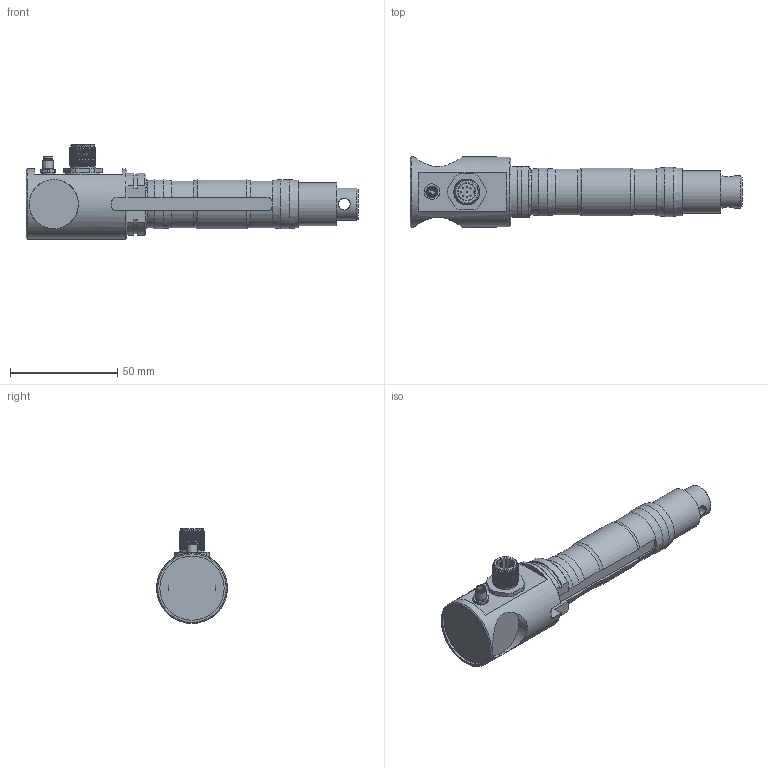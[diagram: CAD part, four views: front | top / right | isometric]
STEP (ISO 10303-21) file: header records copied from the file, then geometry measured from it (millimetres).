
FILE_DESCRIPTION(/* description */ ('Alibre Inc.'),/* implementation_level */ '2;1');
FILE_NAME(/* name */ 'export-CA1CCE26-4D4D-4188-8342-C6634B8B03EA',/* time_stamp */ '2020-03-02T15:29:04+01:00',/* author */ (''),/* organization */ (''),/* preprocessor_version */ 'ST-DEVELOPER v17',/* originating_system */ 'Alibre',/* authorisation */ '');
FILE_SCHEMA (('CONFIG_CONTROL_DESIGN'));
Length unit declared in the file: millimetre
Bounding box: 155 x 33 x 44.33 mm (x, y, z)
Volume: 73441.2 mm3; surface area: 19123.9 mm2
Topology: 10 solids, 11 shells, 264 faces, 612 edges, 392 vertices
Faces by surface type: plane 108, cylinder 96, cone 23, bspline 23, torus 10, sphere 4
Full cylindrical faces by diameter (mm): 0.48 x4, 0.5 x16, 0.6 x1, 0.7 x4, 4.25 x1, 4.3 x1, 4.459 x1, 4.989 x1, 5 x2, 5.5 x1, 8 x2, 10 x2, 11 x1, 11.5 x1, 13 x2, 14.5 x1, 15 x1, 20 x1, 23 x3, 30 x1, 33 x1
Entity records: 17911 total; most frequent: CARTESIAN_POINT 12599, ORIENTED_EDGE 1022, DIRECTION 828, EDGE_CURVE 501, EDGE_LOOP 381, FACE_BOUND 381, AXIS2_PLACEMENT_3D 379, VERTEX_POINT 354
